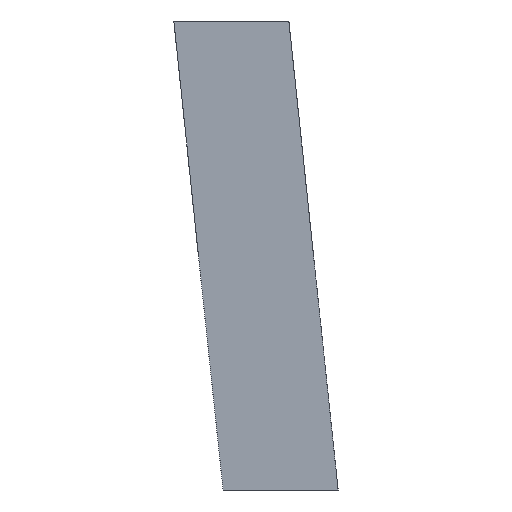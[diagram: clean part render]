
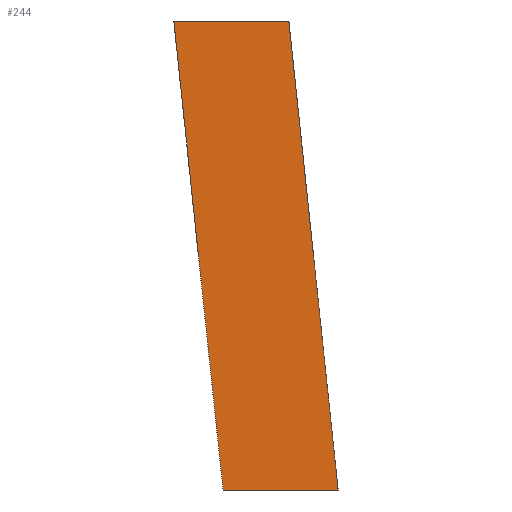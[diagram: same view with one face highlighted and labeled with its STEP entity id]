
A CAD part, left-side view. The second image highlights one B-rep face of the part: STEP entity #244.
In plain terms, the highlighted planar face has unit normal (-1, 0, 0).
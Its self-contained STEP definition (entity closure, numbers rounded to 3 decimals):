
#21 = EDGE_CURVE('',#22,#24,#26,.T.);
#22 = VERTEX_POINT('',#23);
#23 = CARTESIAN_POINT('',(-29.,-12.,-20.333));
#24 = VERTEX_POINT('',#25);
#25 = CARTESIAN_POINT('',(-29.,-9.863,0.));
#26 = SURFACE_CURVE('',#27,(#31,#43),.PCURVE_S1.);
#27 = LINE('',#28,#29);
#28 = CARTESIAN_POINT('',(-29.,-12.,-20.333));
#29 = VECTOR('',#30,1.);
#30 = DIRECTION('',(-0.,0.105,0.995));
#31 = PCURVE('',#32,#37);
#32 = PLANE('',#33);
#33 = AXIS2_PLACEMENT_3D('',#34,#35,#36);
#34 = CARTESIAN_POINT('',(-29.,-12.,-20.333));
#35 = DIRECTION('',(0.,0.995,-0.105));
#36 = DIRECTION('',(0.,-0.105,-0.995));
#37 = DEFINITIONAL_REPRESENTATION('',(#38),#42);
#38 = LINE('',#39,#40);
#39 = CARTESIAN_POINT('',(-0.,0.));
#40 = VECTOR('',#41,1.);
#41 = DIRECTION('',(-1.,0.));
#42 = ( GEOMETRIC_REPRESENTATION_CONTEXT(2) 
PARAMETRIC_REPRESENTATION_CONTEXT() REPRESENTATION_CONTEXT('2D SPACE',''
  ) );
#43 = PCURVE('',#44,#49);
#44 = PLANE('',#45);
#45 = AXIS2_PLACEMENT_3D('',#46,#47,#48);
#46 = CARTESIAN_POINT('',(-29.,-4.928,23.167));
#47 = DIRECTION('',(1.,-0.,-0.));
#48 = DIRECTION('',(0.,0.,-1.));
#49 = DEFINITIONAL_REPRESENTATION('',(#50),#54);
#50 = LINE('',#51,#52);
#51 = CARTESIAN_POINT('',(43.5,-7.072));
#52 = VECTOR('',#53,1.);
#53 = DIRECTION('',(-0.995,0.105));
#54 = ( GEOMETRIC_REPRESENTATION_CONTEXT(2) 
PARAMETRIC_REPRESENTATION_CONTEXT() REPRESENTATION_CONTEXT('2D SPACE',''
  ) );
#72 = PLANE('',#73);
#73 = AXIS2_PLACEMENT_3D('',#74,#75,#76);
#74 = CARTESIAN_POINT('',(-29.,-7.,-20.333));
#75 = DIRECTION('',(-0.,-0.,1.));
#76 = DIRECTION('',(0.,1.,0.));
#128 = PLANE('',#129);
#129 = AXIS2_PLACEMENT_3D('',#130,#131,#132);
#130 = CARTESIAN_POINT('',(-400.,388.,0.));
#131 = DIRECTION('',(0.,0.,1.));
#132 = DIRECTION('',(-1.,-0.,0.));
#244 = ADVANCED_FACE('',(#245),#44,.F.);
#245 = FACE_BOUND('',#246,.T.);
#246 = EDGE_LOOP('',(#247,#270,#271,#294));
#247 = ORIENTED_EDGE('',*,*,#248,.T.);
#248 = EDGE_CURVE('',#249,#22,#251,.T.);
#249 = VERTEX_POINT('',#250);
#250 = CARTESIAN_POINT('',(-29.,-7.,-20.333));
#251 = SURFACE_CURVE('',#252,(#256,#263),.PCURVE_S1.);
#252 = LINE('',#253,#254);
#253 = CARTESIAN_POINT('',(-29.,-7.,-20.333));
#254 = VECTOR('',#255,1.);
#255 = DIRECTION('',(-0.,-1.,-0.));
#256 = PCURVE('',#44,#257);
#257 = DEFINITIONAL_REPRESENTATION('',(#258),#262);
#258 = LINE('',#259,#260);
#259 = CARTESIAN_POINT('',(43.5,-2.072));
#260 = VECTOR('',#261,1.);
#261 = DIRECTION('',(-0.,-1.));
#262 = ( GEOMETRIC_REPRESENTATION_CONTEXT(2) 
PARAMETRIC_REPRESENTATION_CONTEXT() REPRESENTATION_CONTEXT('2D SPACE',''
  ) );
#263 = PCURVE('',#72,#264);
#264 = DEFINITIONAL_REPRESENTATION('',(#265),#269);
#265 = LINE('',#266,#267);
#266 = CARTESIAN_POINT('',(-0.,-0.));
#267 = VECTOR('',#268,1.);
#268 = DIRECTION('',(-1.,0.));
#269 = ( GEOMETRIC_REPRESENTATION_CONTEXT(2) 
PARAMETRIC_REPRESENTATION_CONTEXT() REPRESENTATION_CONTEXT('2D SPACE',''
  ) );
#270 = ORIENTED_EDGE('',*,*,#21,.T.);
#271 = ORIENTED_EDGE('',*,*,#272,.T.);
#272 = EDGE_CURVE('',#24,#273,#275,.T.);
#273 = VERTEX_POINT('',#274);
#274 = CARTESIAN_POINT('',(-29.,-4.863,0.));
#275 = SURFACE_CURVE('',#276,(#280,#287),.PCURVE_S1.);
#276 = LINE('',#277,#278);
#277 = CARTESIAN_POINT('',(-29.,191.536,0.));
#278 = VECTOR('',#279,1.);
#279 = DIRECTION('',(-0.,1.,-0.));
#280 = PCURVE('',#44,#281);
#281 = DEFINITIONAL_REPRESENTATION('',(#282),#286);
#282 = LINE('',#283,#284);
#283 = CARTESIAN_POINT('',(23.167,196.464));
#284 = VECTOR('',#285,1.);
#285 = DIRECTION('',(-0.,1.));
#286 = ( GEOMETRIC_REPRESENTATION_CONTEXT(2) 
PARAMETRIC_REPRESENTATION_CONTEXT() REPRESENTATION_CONTEXT('2D SPACE',''
  ) );
#287 = PCURVE('',#128,#288);
#288 = DEFINITIONAL_REPRESENTATION('',(#289),#293);
#289 = LINE('',#290,#291);
#290 = CARTESIAN_POINT('',(-371.,196.464));
#291 = VECTOR('',#292,1.);
#292 = DIRECTION('',(-0.,-1.));
#293 = ( GEOMETRIC_REPRESENTATION_CONTEXT(2) 
PARAMETRIC_REPRESENTATION_CONTEXT() REPRESENTATION_CONTEXT('2D SPACE',''
  ) );
#294 = ORIENTED_EDGE('',*,*,#295,.T.);
#295 = EDGE_CURVE('',#273,#249,#296,.T.);
#296 = SURFACE_CURVE('',#297,(#301,#308),.PCURVE_S1.);
#297 = LINE('',#298,#299);
#298 = CARTESIAN_POINT('',(-29.,2.144,66.667));
#299 = VECTOR('',#300,1.);
#300 = DIRECTION('',(-0.,-0.105,-0.995));
#301 = PCURVE('',#44,#302);
#302 = DEFINITIONAL_REPRESENTATION('',(#303),#307);
#303 = LINE('',#304,#305);
#304 = CARTESIAN_POINT('',(-43.5,7.072));
#305 = VECTOR('',#306,1.);
#306 = DIRECTION('',(0.995,-0.105));
#307 = ( GEOMETRIC_REPRESENTATION_CONTEXT(2) 
PARAMETRIC_REPRESENTATION_CONTEXT() REPRESENTATION_CONTEXT('2D SPACE',''
  ) );
#308 = PCURVE('',#309,#314);
#309 = PLANE('',#310);
#310 = AXIS2_PLACEMENT_3D('',#311,#312,#313);
#311 = CARTESIAN_POINT('',(-29.,2.144,66.667));
#312 = DIRECTION('',(-0.,-0.995,0.105));
#313 = DIRECTION('',(0.,0.105,0.995));
#314 = DEFINITIONAL_REPRESENTATION('',(#315),#319);
#315 = LINE('',#316,#317);
#316 = CARTESIAN_POINT('',(-0.,-0.));
#317 = VECTOR('',#318,1.);
#318 = DIRECTION('',(-1.,0.));
#319 = ( GEOMETRIC_REPRESENTATION_CONTEXT(2) 
PARAMETRIC_REPRESENTATION_CONTEXT() REPRESENTATION_CONTEXT('2D SPACE',''
  ) );
